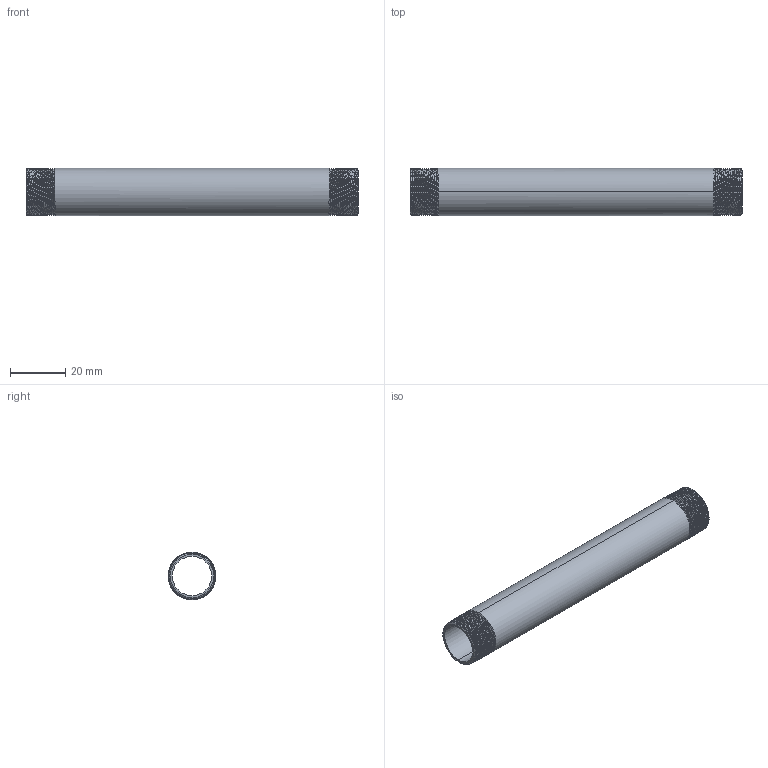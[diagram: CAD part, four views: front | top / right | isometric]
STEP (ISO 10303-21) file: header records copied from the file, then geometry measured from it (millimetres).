
FILE_DESCRIPTION (( 'STEP AP203' ), '1' );
FILE_NAME ('3D_R210_3-8x120_17185820.STEP', '2024-08-16T13:43:59', ( '' ), ( '' ), 'SwSTEP 2.0', 'SolidWorks 2024', '' );
FILE_SCHEMA (( 'CONFIG_CONTROL_DESIGN' ));
Length unit declared in the file: millimetre
Products named in the file (1): 3D_R210_3-8x120_17185820
Bounding box: 120 x 17.19 x 17.2 mm (x, y, z)
Volume: 8646.4 mm3; surface area: 12415.1 mm2
Topology: 1 solids, 1 shells, 76 faces, 218 edges, 144 vertices
Faces by surface type: cone 62, bspline 6, cylinder 4, plane 4
Entity records: 11224 total; most frequent: CARTESIAN_POINT 9454, ORIENTED_EDGE 436, DIRECTION 230, EDGE_CURVE 218, VERTEX_POINT 144, B_SPLINE_CURVE_WITH_KNOTS 132, AXIS2_PLACEMENT_3D 81, EDGE_LOOP 78
